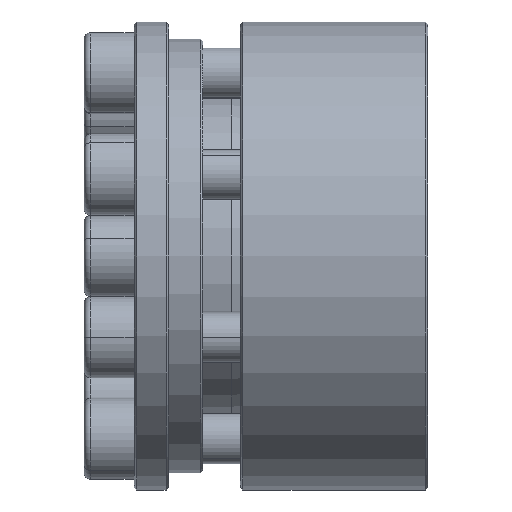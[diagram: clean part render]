
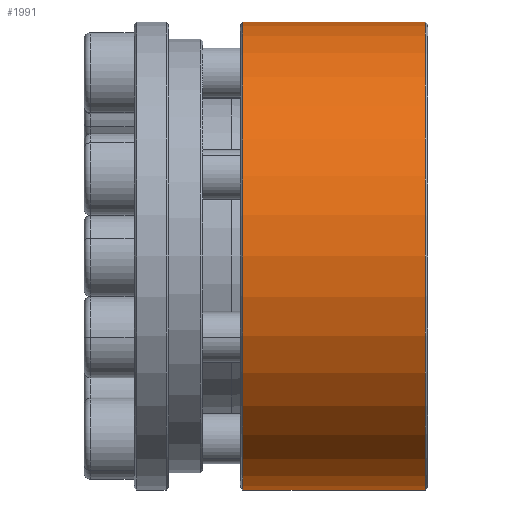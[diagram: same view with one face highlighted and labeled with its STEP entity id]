
A CAD part, front view. The second image highlights one B-rep face of the part: STEP entity #1991.
In plain terms, the highlighted cylindrical face has radius 37.45 mm (diameter 74.9 mm), a partial arc.
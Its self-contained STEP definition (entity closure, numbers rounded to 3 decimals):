
#20 = CARTESIAN_POINT ( 'NONE',  ( -88.366, 26.04, 0. ) ) ;
#361 = VECTOR ( 'NONE', #5121, 1000. ) ;
#477 = VERTEX_POINT ( 'NONE', #7406 ) ;
#732 = CARTESIAN_POINT ( 'NONE',  ( -88.766, 26.04, -37.45 ) ) ;
#844 = CARTESIAN_POINT ( 'NONE',  ( -88.366, 26.04, 37.45 ) ) ;
#1238 = DIRECTION ( 'NONE',  ( 1., 0., 0. ) ) ;
#1717 = CARTESIAN_POINT ( 'NONE',  ( -59.166, 26.04, 0. ) ) ;
#1881 = VECTOR ( 'NONE', #6869, 1000. ) ;
#1991 = ADVANCED_FACE ( 'NONE', ( #5274 ), #7712, .T. ) ;
#2226 = EDGE_CURVE ( 'NONE', #7044, #7720, #2589, .T. ) ;
#2552 = CARTESIAN_POINT ( 'NONE',  ( -59.166, 26.04, -37.45 ) ) ;
#2589 = LINE ( 'NONE', #4914, #1881 ) ;
#2626 = DIRECTION ( 'NONE',  ( -1., 0., 0. ) ) ;
#2643 = LINE ( 'NONE', #732, #361 ) ;
#2825 = AXIS2_PLACEMENT_3D ( 'NONE', #1717, #7250, #5340 ) ;
#3184 = DIRECTION ( 'NONE',  ( 0., 0., -1. ) ) ;
#3839 = ORIENTED_EDGE ( 'NONE', *, *, #4416, .F. ) ;
#4130 = EDGE_CURVE ( 'NONE', #7678, #7044, #6326, .T. ) ;
#4416 = EDGE_CURVE ( 'NONE', #7678, #477, #2643, .T. ) ;
#4565 = ORIENTED_EDGE ( 'NONE', *, *, #4130, .T. ) ;
#4713 = CARTESIAN_POINT ( 'NONE',  ( -59.166, 26.04, 37.45 ) ) ;
#4914 = CARTESIAN_POINT ( 'NONE',  ( -88.766, 26.04, 37.45 ) ) ;
#5121 = DIRECTION ( 'NONE',  ( -1., 0., 0. ) ) ;
#5274 = FACE_OUTER_BOUND ( 'NONE', #6804, .T. ) ;
#5340 = DIRECTION ( 'NONE',  ( 0., 0., 1. ) ) ;
#5583 = EDGE_CURVE ( 'NONE', #7720, #477, #5968, .T. ) ;
#5674 = ORIENTED_EDGE ( 'NONE', *, *, #2226, .T. ) ;
#5968 = CIRCLE ( 'NONE', #6351, 37.45 ) ;
#6326 = CIRCLE ( 'NONE', #2825, 37.45 ) ;
#6351 = AXIS2_PLACEMENT_3D ( 'NONE', #20, #1238, #3184 ) ;
#6804 = EDGE_LOOP ( 'NONE', ( #3839, #4565, #5674, #7175 ) ) ;
#6869 = DIRECTION ( 'NONE',  ( -1., 0., 0. ) ) ;
#7044 = VERTEX_POINT ( 'NONE', #4713 ) ;
#7175 = ORIENTED_EDGE ( 'NONE', *, *, #5583, .T. ) ;
#7250 = DIRECTION ( 'NONE',  ( -1., 0., 0. ) ) ;
#7406 = CARTESIAN_POINT ( 'NONE',  ( -88.366, 26.04, -37.45 ) ) ;
#7524 = AXIS2_PLACEMENT_3D ( 'NONE', #7673, #2626, #7753 ) ;
#7673 = CARTESIAN_POINT ( 'NONE',  ( -88.766, 26.04, 0. ) ) ;
#7678 = VERTEX_POINT ( 'NONE', #2552 ) ;
#7712 = CYLINDRICAL_SURFACE ( 'NONE', #7524, 37.45 ) ;
#7720 = VERTEX_POINT ( 'NONE', #844 ) ;
#7753 = DIRECTION ( 'NONE',  ( 0., 0., 1. ) ) ;
